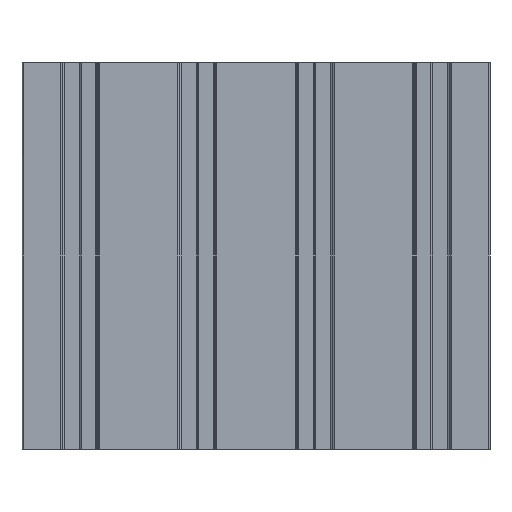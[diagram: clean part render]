
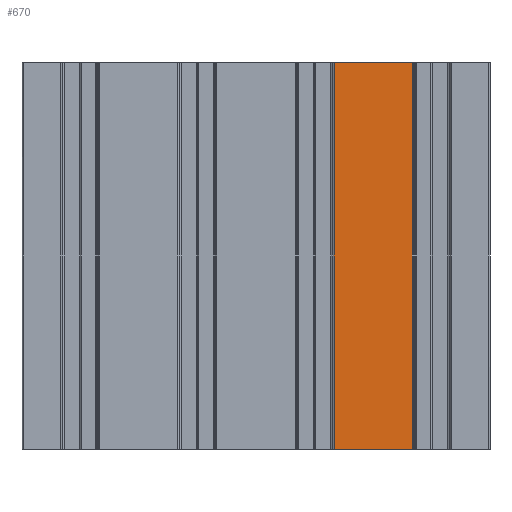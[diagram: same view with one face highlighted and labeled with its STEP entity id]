
A CAD part, front view. The second image highlights one B-rep face of the part: STEP entity #670.
In plain terms, the highlighted free-form (B-spline) face has degree [1, 1] with [2, 2] control points.
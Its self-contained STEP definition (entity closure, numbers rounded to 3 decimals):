
#135 = CARTESIAN_POINT ( 'NONE',  ( 3139.304, 1724.695, 0. ) ) ;
#201 = VERTEX_POINT ( 'NONE', #6730 ) ;
#405 = B_SPLINE_SURFACE_WITH_KNOTS ( 'NONE', 1, 1, ( 
 ( #5175, #3720 ),
 ( #6755, #7502 ) ),
 .UNSPECIFIED., .F., .F., .F.,
 ( 2, 2 ),
 ( 2, 2 ),
 ( 0., 1. ),
 ( 0., 1. ),
 .UNSPECIFIED. ) ;
#670 = ADVANCED_FACE ( 'NONE', ( #1542 ), #405, .F. ) ;
#785 = CARTESIAN_POINT ( 'NONE',  ( 3139.304, 1724.695, 100. ) ) ;
#1228 = VERTEX_POINT ( 'NONE', #3822 ) ;
#1280 = B_SPLINE_CURVE_WITH_KNOTS ( 'NONE', 1,
 ( #6120, #5437 ),
 .UNSPECIFIED., .F., .F.,
 ( 2, 2 ),
 ( 0., 1. ),
 .UNSPECIFIED. ) ;
#1542 = FACE_OUTER_BOUND ( 'NONE', #5103, .T. ) ;
#1765 = EDGE_CURVE ( 'NONE', #3732, #3071, #1280, .T. ) ;
#3071 = VERTEX_POINT ( 'NONE', #135 ) ;
#3478 = CARTESIAN_POINT ( 'NONE',  ( 3119.122, 1724.695, 100. ) ) ;
#3617 = B_SPLINE_CURVE_WITH_KNOTS ( 'NONE', 1,
 ( #8667, #3478 ),
 .UNSPECIFIED., .F., .F.,
 ( 2, 2 ),
 ( -1., 0. ),
 .UNSPECIFIED. ) ;
#3720 = CARTESIAN_POINT ( 'NONE',  ( 3139.304, 1724.695, 0. ) ) ;
#3732 = VERTEX_POINT ( 'NONE', #7690 ) ;
#3822 = CARTESIAN_POINT ( 'NONE',  ( 3119.122, 1724.695, 100. ) ) ;
#4533 = CARTESIAN_POINT ( 'NONE',  ( 3119.122, 1724.695, 100. ) ) ;
#5009 = CARTESIAN_POINT ( 'NONE',  ( 3139.304, 1724.695, 100. ) ) ;
#5098 = B_SPLINE_CURVE_WITH_KNOTS ( 'NONE', 1,
 ( #4533, #785 ),
 .UNSPECIFIED., .F., .F.,
 ( 2, 2 ),
 ( 0., 1. ),
 .UNSPECIFIED. ) ;
#5103 = EDGE_LOOP ( 'NONE', ( #7731, #6732, #7052, #5965 ) ) ;
#5175 = CARTESIAN_POINT ( 'NONE',  ( 3119.122, 1724.695, 0. ) ) ;
#5437 = CARTESIAN_POINT ( 'NONE',  ( 3139.304, 1724.695, 0. ) ) ;
#5619 = EDGE_CURVE ( 'NONE', #3732, #1228, #3617, .T. ) ;
#5810 = EDGE_CURVE ( 'NONE', #1228, #201, #5098, .T. ) ;
#5849 = B_SPLINE_CURVE_WITH_KNOTS ( 'NONE', 1,
 ( #5009, #6535 ),
 .UNSPECIFIED., .F., .F.,
 ( 2, 2 ),
 ( -1., 0. ),
 .UNSPECIFIED. ) ;
#5965 = ORIENTED_EDGE ( 'NONE', *, *, #1765, .T. ) ;
#6101 = EDGE_CURVE ( 'NONE', #201, #3071, #5849, .T. ) ;
#6120 = CARTESIAN_POINT ( 'NONE',  ( 3119.122, 1724.695, 0. ) ) ;
#6535 = CARTESIAN_POINT ( 'NONE',  ( 3139.304, 1724.695, 0. ) ) ;
#6730 = CARTESIAN_POINT ( 'NONE',  ( 3139.304, 1724.695, 100. ) ) ;
#6732 = ORIENTED_EDGE ( 'NONE', *, *, #5810, .F. ) ;
#6755 = CARTESIAN_POINT ( 'NONE',  ( 3119.122, 1724.695, 100. ) ) ;
#7052 = ORIENTED_EDGE ( 'NONE', *, *, #5619, .F. ) ;
#7502 = CARTESIAN_POINT ( 'NONE',  ( 3139.304, 1724.695, 100. ) ) ;
#7690 = CARTESIAN_POINT ( 'NONE',  ( 3119.122, 1724.695, 0. ) ) ;
#7731 = ORIENTED_EDGE ( 'NONE', *, *, #6101, .F. ) ;
#8667 = CARTESIAN_POINT ( 'NONE',  ( 3119.122, 1724.695, 0. ) ) ;
